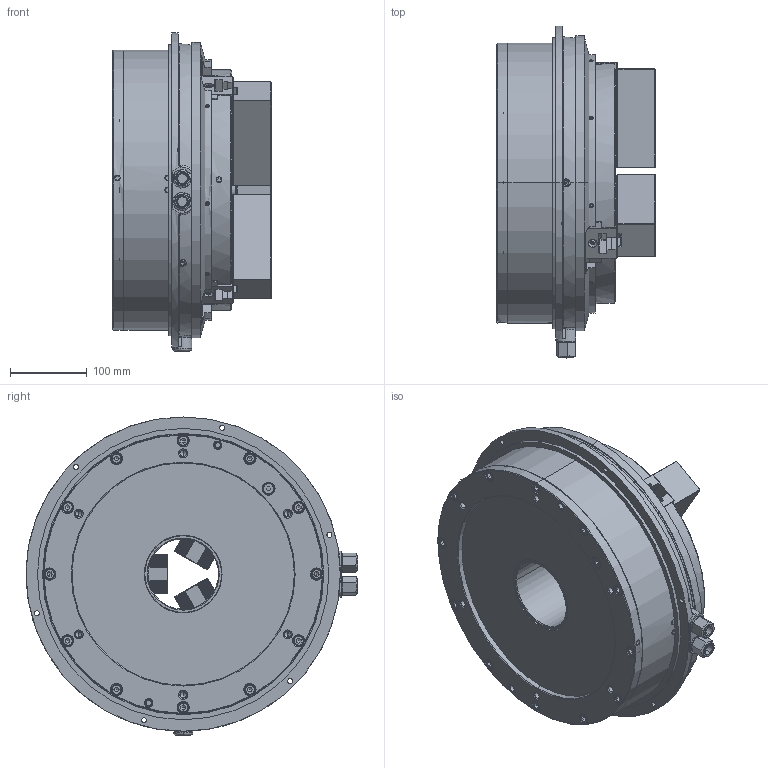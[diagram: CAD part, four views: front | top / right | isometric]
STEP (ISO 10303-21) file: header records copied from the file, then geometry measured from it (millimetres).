
FILE_DESCRIPTION (( 'STEP AP214' ), '1' );
FILE_NAME ('DEV-UVE315K-HCL.STEP', '2024-10-03T01:52:32', ( '' ), ( '' ), 'SwSTEP 2.0', 'SolidWorks 2022', '' );
FILE_SCHEMA (( 'AUTOMOTIVE_DESIGN' ));
Length unit declared in the file: millimetre
Products named in the file (6): Copy of 61P401342^DEV-UVE315K-クミタテ; Copy of 0030114035^DEV-UVE315K-クミタテ; DEV-UVE315K-HCL; Copy of 0693000003^DEV-UVE315K-クミタテ; Part1^DEV-UVE315K-クミタテ; Copy of 61P301186^DEV-UVE315K-クミタテ
Assembly tree (18 placements, depth 2):
  DEV-UVE315K-HCL
    Copy of 61P301186^DEV-UVE315K-クミタテ  x3
    Copy of 61P401342^DEV-UVE315K-クミタテ  x6
    Copy of 0030114035^DEV-UVE315K-クミタテ  x6
    Copy of 0693000003^DEV-UVE315K-クミタテ  x2
    Part1^DEV-UVE315K-クミタテ
Bounding box: 206.45 x 433 x 415 mm (x, y, z)
Volume: 15139979.5 mm3; surface area: 804318.7 mm2
Topology: 18 solids, 54 shells, 7092 faces, 19962 edges, 13054 vertices
Faces by surface type: plane 4056, cylinder 2088, cone 626, bspline 243, torus 59, sphere 20
Entity records: 177013 total; most frequent: CARTESIAN_POINT 52070, ORIENTED_EDGE 28602, DIRECTION 22491, EDGE_CURVE 14301, VERTEX_POINT 9399, LINE 9377, VECTOR 9377, AXIS2_PLACEMENT_3D 6557
